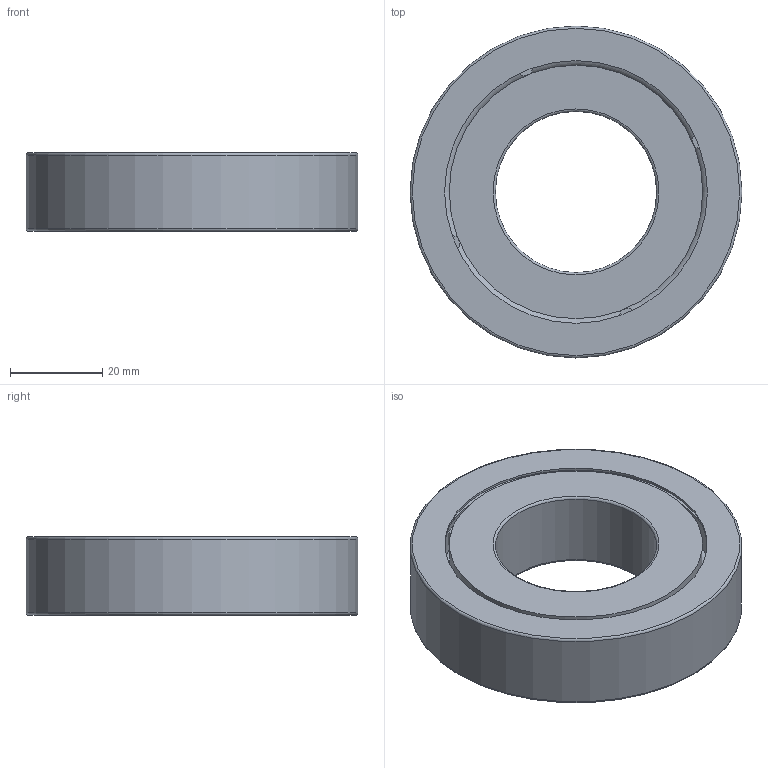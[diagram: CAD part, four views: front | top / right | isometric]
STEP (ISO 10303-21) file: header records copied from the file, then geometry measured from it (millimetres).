
FILE_DESCRIPTION(/* description */ (''),/* implementation_level */ '2;1');
FILE_NAME(/* name */ '301077 FK 6207.stp',/* time_stamp */ '2016-11-18T11:56:17+01:00',/* author */ (''),/* organization */ (''),/* preprocessor_version */ 'ST-DEVELOPER v15',/* originating_system */ 'SIEMENS PLM Software NX 8.5',/* authorisation */ '');
FILE_SCHEMA (('CONFIG_CONTROL_DESIGN'));
Length unit declared in the file: millimetre
Products named in the file (3): ATE0000079_01; ATE0000108_01; ATE0000109_01
Assembly tree (2 placements, depth 2):
  ATE0000109_01
    ATE0000108_01
    ATE0000079_01
Bounding box: 72 x 72 x 17 mm (x, y, z)
Volume: 45244.6 mm3; surface area: 21597.1 mm2
Topology: 2 solids, 2 shells, 66 faces, 147 edges, 96 vertices
Faces by surface type: plane 41, cylinder 19, torus 6
Full cylindrical faces by diameter (mm): 35 x1, 55 x2, 57 x1, 59 x1, 61 x1, 62 x2, 63 x2, 72 x1
Entity records: 2006 total; most frequent: DIRECTION 318, CARTESIAN_POINT 281, ORIENTED_EDGE 244, AXIS2_PLACEMENT_3D 127, EDGE_CURVE 122, EDGE_LOOP 100, VERTEX_POINT 90, ADVANCED_FACE 66
